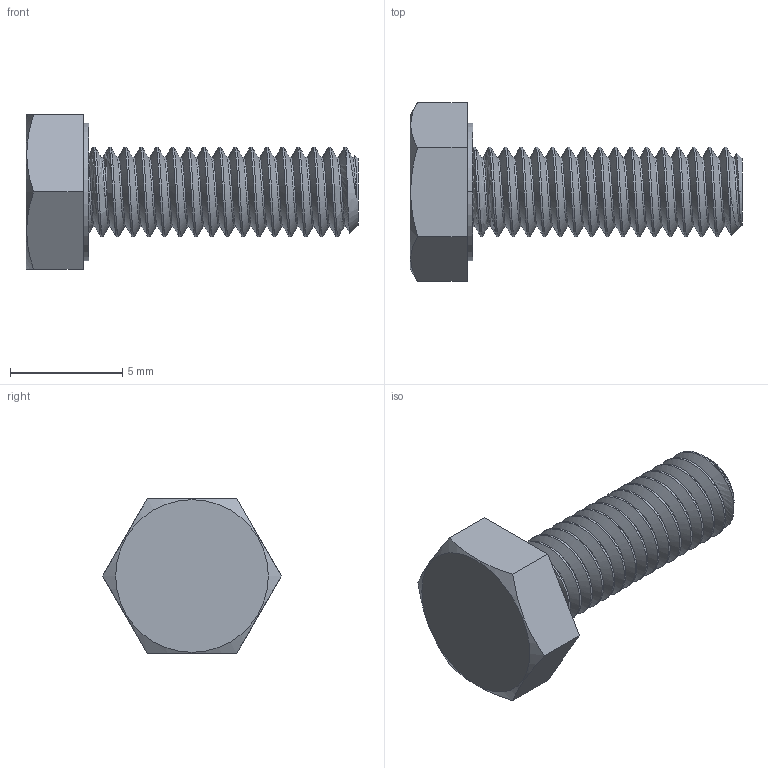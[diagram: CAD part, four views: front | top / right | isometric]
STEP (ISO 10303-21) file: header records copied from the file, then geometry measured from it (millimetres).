
FILE_DESCRIPTION (( 'STEP AP203' ), '1' );
FILE_NAME ('2813-0004-0012.STEP', '2023-03-21T14:28:37', ( '' ), ( '' ), 'SwSTEP 2.0', 'SolidWorks 2016', '' );
FILE_SCHEMA (( 'CONFIG_CONTROL_DESIGN' ));
Length unit declared in the file: millimetre
Products named in the file (1): 2813-0004-0012
Bounding box: 14.8 x 7.97 x 6.9 mm (x, y, z)
Volume: 231 mm3; surface area: 375.3 mm2
Topology: 1 solids, 1 shells, 53 faces, 146 edges, 97 vertices
Faces by surface type: cylinder 36, plane 10, cone 4, bspline 3
Entity records: 3929 total; most frequent: CARTESIAN_POINT 2738, ORIENTED_EDGE 292, DIRECTION 173, EDGE_CURVE 146, VERTEX_POINT 97, AXIS2_PLACEMENT_3D 61, EDGE_LOOP 55, FACE_OUTER_BOUND 53
